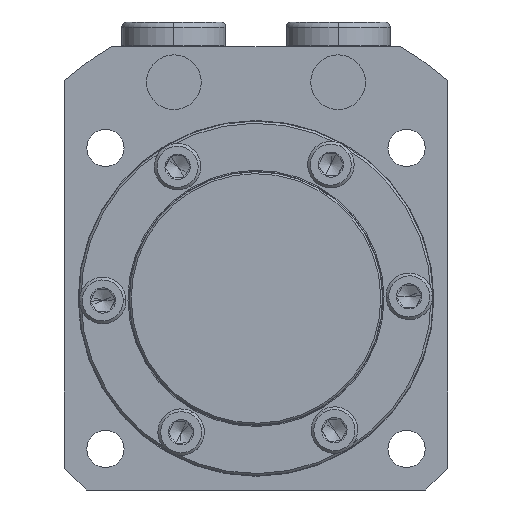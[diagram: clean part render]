
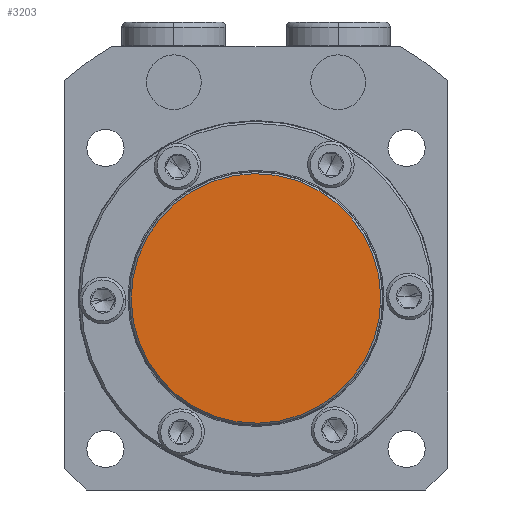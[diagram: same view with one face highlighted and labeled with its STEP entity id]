
A CAD part, front view. The second image highlights one B-rep face of the part: STEP entity #3203.
In plain terms, the highlighted planar face has unit normal (0, -1, 0).
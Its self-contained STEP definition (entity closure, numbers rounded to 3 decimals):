
#148 = CIRCLE ( 'NONE', #153, 22.8 ) ;
#153 = AXIS2_PLACEMENT_3D ( 'NONE', #4749, #4750, #4751 ) ;
#1428 = ORIENTED_EDGE ( 'NONE', *, *, #4920, .T. ) ;
#1429 = ORIENTED_EDGE ( 'NONE', *, *, #2380, .T. ) ;
#1591 = EDGE_LOOP ( 'NONE', ( #1428, #1429 ) ) ;
#2171 = VERTEX_POINT ( 'NONE', #4230 ) ;
#2180 = VERTEX_POINT ( 'NONE', #4243 ) ;
#2380 = EDGE_CURVE ( 'NONE', #2171, #2180, #148, .T. ) ;
#3203 = ADVANCED_FACE ( 'NONE', ( #5281 ), #5282, .T. ) ;
#4230 = CARTESIAN_POINT ( 'NONE',  ( 0., -10.5, -22.8 ) ) ;
#4243 = CARTESIAN_POINT ( 'NONE',  ( 0., -10.5, 22.8 ) ) ;
#4749 = CARTESIAN_POINT ( 'NONE',  ( 0., -10.5, 0. ) ) ;
#4750 = DIRECTION ( 'NONE',  ( 0., -1., 0. ) ) ;
#4751 = DIRECTION ( 'NONE',  ( 0., 0., -1. ) ) ;
#4920 = EDGE_CURVE ( 'NONE', #2180, #2171, #5682, .T. ) ;
#5257 = CARTESIAN_POINT ( 'NONE',  ( 0., -10.5, 0. ) ) ;
#5281 = FACE_OUTER_BOUND ( 'NONE', #1591, .T. ) ;
#5282 = PLANE ( 'NONE',  #5582 ) ;
#5285 = DIRECTION ( 'NONE',  ( 0., -1., 0. ) ) ;
#5286 = DIRECTION ( 'NONE',  ( 0., 0., -1. ) ) ;
#5582 = AXIS2_PLACEMENT_3D ( 'NONE', #5257, #5285, #5286 ) ;
#5682 = CIRCLE ( 'NONE', #5685, 22.8 ) ;
#5685 = AXIS2_PLACEMENT_3D ( 'NONE', #5839, #5840, #5841 ) ;
#5839 = CARTESIAN_POINT ( 'NONE',  ( 0., -10.5, 0. ) ) ;
#5840 = DIRECTION ( 'NONE',  ( 0., -1., 0. ) ) ;
#5841 = DIRECTION ( 'NONE',  ( 0., 0., -1. ) ) ;
